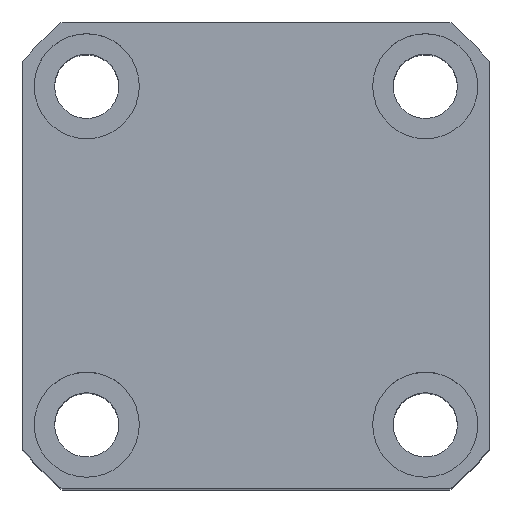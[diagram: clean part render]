
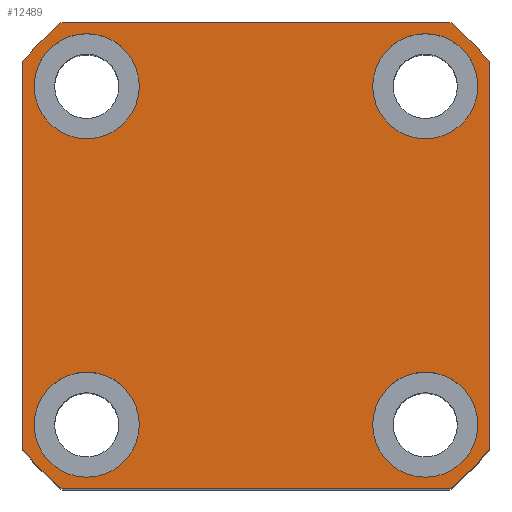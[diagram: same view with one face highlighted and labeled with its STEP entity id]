
A CAD part, top view. The second image highlights one B-rep face of the part: STEP entity #12489.
In plain terms, the highlighted planar face has unit normal (0, 0, 1).
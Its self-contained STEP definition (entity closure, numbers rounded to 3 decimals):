
#107 = EDGE_CURVE ( 'NONE', #7806, #4347, #4586, .T. ) ;
#220 = EDGE_LOOP ( 'NONE', ( #11628, #12143, #1684, #2811, #1865, #14330, #4823, #14728 ) ) ;
#363 = CARTESIAN_POINT ( 'NONE',  ( -38., -29., 52.5 ) ) ;
#383 = EDGE_CURVE ( 'NONE', #12093, #3371, #5280, .T. ) ;
#530 = FACE_BOUND ( 'NONE', #10730, .T. ) ;
#678 = DIRECTION ( 'NONE',  ( 1., 0., 0. ) ) ;
#690 = VERTEX_POINT ( 'NONE', #1477 ) ;
#784 = DIRECTION ( 'NONE',  ( 0., 0., 1. ) ) ;
#790 = CARTESIAN_POINT ( 'NONE',  ( 29., 29., 52.5 ) ) ;
#918 = LINE ( 'NONE', #8111, #12645 ) ;
#964 = VERTEX_POINT ( 'NONE', #14596 ) ;
#1140 = CARTESIAN_POINT ( 'NONE',  ( -38., 29., 52.5 ) ) ;
#1145 = ORIENTED_EDGE ( 'NONE', *, *, #383, .F. ) ;
#1226 = AXIS2_PLACEMENT_3D ( 'NONE', #5918, #1449, #1491 ) ;
#1241 = FACE_BOUND ( 'NONE', #4212, .T. ) ;
#1249 = AXIS2_PLACEMENT_3D ( 'NONE', #5684, #10128, #5488 ) ;
#1386 = DIRECTION ( 'NONE',  ( 1., 0., 0. ) ) ;
#1406 = VERTEX_POINT ( 'NONE', #11835 ) ;
#1449 = DIRECTION ( 'NONE',  ( 0., 0., 1. ) ) ;
#1477 = CARTESIAN_POINT ( 'NONE',  ( 38., 29., 52.5 ) ) ;
#1491 = DIRECTION ( 'NONE',  ( 1., 0., 0. ) ) ;
#1684 = ORIENTED_EDGE ( 'NONE', *, *, #14393, .T. ) ;
#1688 = VERTEX_POINT ( 'NONE', #7994 ) ;
#1765 = CIRCLE ( 'NONE', #11848, 52. ) ;
#1865 = ORIENTED_EDGE ( 'NONE', *, *, #4082, .T. ) ;
#1914 = VECTOR ( 'NONE', #11113, 1000. ) ;
#2273 = EDGE_CURVE ( 'NONE', #13823, #1406, #8250, .T. ) ;
#2431 = CARTESIAN_POINT ( 'NONE',  ( -40., 33.226, 52.5 ) ) ;
#2452 = AXIS2_PLACEMENT_3D ( 'NONE', #10095, #6751, #8017 ) ;
#2558 = CARTESIAN_POINT ( 'NONE',  ( 20., 29., 52.5 ) ) ;
#2579 = CARTESIAN_POINT ( 'NONE',  ( 40., 33.226, 52.5 ) ) ;
#2666 = AXIS2_PLACEMENT_3D ( 'NONE', #6213, #10846, #678 ) ;
#2749 = VERTEX_POINT ( 'NONE', #12385 ) ;
#2811 = ORIENTED_EDGE ( 'NONE', *, *, #107, .T. ) ;
#2931 = EDGE_CURVE ( 'NONE', #9755, #7926, #7462, .T. ) ;
#3055 = PLANE ( 'NONE',  #8525 ) ;
#3078 = DIRECTION ( 'NONE',  ( 0., 1., 0. ) ) ;
#3371 = VERTEX_POINT ( 'NONE', #1140 ) ;
#3671 = DIRECTION ( 'NONE',  ( 1., 0., 0. ) ) ;
#3706 = EDGE_CURVE ( 'NONE', #7926, #9755, #7653, .T. ) ;
#3729 = LINE ( 'NONE', #6723, #5689 ) ;
#4018 = DIRECTION ( 'NONE',  ( 1., 0., 0. ) ) ;
#4082 = EDGE_CURVE ( 'NONE', #4347, #964, #1765, .T. ) ;
#4180 = ORIENTED_EDGE ( 'NONE', *, *, #3706, .F. ) ;
#4212 = EDGE_LOOP ( 'NONE', ( #5787, #10402 ) ) ;
#4347 = VERTEX_POINT ( 'NONE', #6998 ) ;
#4414 = CIRCLE ( 'NONE', #6284, 52. ) ;
#4457 = CARTESIAN_POINT ( 'NONE',  ( 0., 0., 52.5 ) ) ;
#4586 = LINE ( 'NONE', #5383, #1914 ) ;
#4589 = DIRECTION ( 'NONE',  ( 0., 0., 1. ) ) ;
#4731 = DIRECTION ( 'NONE',  ( 0., 0., 1. ) ) ;
#4823 = ORIENTED_EDGE ( 'NONE', *, *, #6606, .T. ) ;
#5177 = DIRECTION ( 'NONE',  ( 0., 0., 1. ) ) ;
#5226 = AXIS2_PLACEMENT_3D ( 'NONE', #10707, #5177, #13123 ) ;
#5249 = VECTOR ( 'NONE', #11686, 1000. ) ;
#5280 = CIRCLE ( 'NONE', #9931, 9. ) ;
#5364 = CARTESIAN_POINT ( 'NONE',  ( 0., 0., 52.5 ) ) ;
#5383 = CARTESIAN_POINT ( 'NONE',  ( -33.226, -40., 52.5 ) ) ;
#5488 = DIRECTION ( 'NONE',  ( 1., 0., 0. ) ) ;
#5523 = CARTESIAN_POINT ( 'NONE',  ( -29., 29., 52.5 ) ) ;
#5684 = CARTESIAN_POINT ( 'NONE',  ( 29., -29., 52.5 ) ) ;
#5689 = VECTOR ( 'NONE', #3078, 1000. ) ;
#5751 = EDGE_CURVE ( 'NONE', #964, #6970, #3729, .T. ) ;
#5770 = ORIENTED_EDGE ( 'NONE', *, *, #7641, .F. ) ;
#5787 = ORIENTED_EDGE ( 'NONE', *, *, #11974, .F. ) ;
#5843 = DIRECTION ( 'NONE',  ( -1., 0., 0. ) ) ;
#5861 = DIRECTION ( 'NONE',  ( 0., 0., 1. ) ) ;
#5918 = CARTESIAN_POINT ( 'NONE',  ( 29., 29., 52.5 ) ) ;
#6012 = CIRCLE ( 'NONE', #7314, 52. ) ;
#6213 = CARTESIAN_POINT ( 'NONE',  ( 29., -29., 52.5 ) ) ;
#6284 = AXIS2_PLACEMENT_3D ( 'NONE', #10416, #4731, #3671 ) ;
#6355 = CARTESIAN_POINT ( 'NONE',  ( -33.226, -40., 52.5 ) ) ;
#6427 = DIRECTION ( 'NONE',  ( 1., 0., 0. ) ) ;
#6606 = EDGE_CURVE ( 'NONE', #6970, #14487, #11538, .T. ) ;
#6723 = CARTESIAN_POINT ( 'NONE',  ( 40., 33.226, 52.5 ) ) ;
#6751 = DIRECTION ( 'NONE',  ( 0., 0., 1. ) ) ;
#6970 = VERTEX_POINT ( 'NONE', #2579 ) ;
#6998 = CARTESIAN_POINT ( 'NONE',  ( 33.226, -40., 52.5 ) ) ;
#7117 = VERTEX_POINT ( 'NONE', #2558 ) ;
#7126 = FACE_BOUND ( 'NONE', #7548, .T. ) ;
#7292 = VERTEX_POINT ( 'NONE', #12235 ) ;
#7314 = AXIS2_PLACEMENT_3D ( 'NONE', #7599, #784, #8731 ) ;
#7462 = CIRCLE ( 'NONE', #5226, 9. ) ;
#7548 = EDGE_LOOP ( 'NONE', ( #4180, #13694 ) ) ;
#7599 = CARTESIAN_POINT ( 'NONE',  ( 0., 0., 52.5 ) ) ;
#7641 = EDGE_CURVE ( 'NONE', #2749, #1688, #9558, .T. ) ;
#7653 = CIRCLE ( 'NONE', #2452, 9. ) ;
#7806 = VERTEX_POINT ( 'NONE', #6355 ) ;
#7841 = DIRECTION ( 'NONE',  ( 1., 0., 0. ) ) ;
#7926 = VERTEX_POINT ( 'NONE', #14519 ) ;
#7993 = FACE_OUTER_BOUND ( 'NONE', #220, .T. ) ;
#7994 = CARTESIAN_POINT ( 'NONE',  ( 38., -29., 52.5 ) ) ;
#8017 = DIRECTION ( 'NONE',  ( 1., 0., 0. ) ) ;
#8111 = CARTESIAN_POINT ( 'NONE',  ( -33.226, 40., 52.5 ) ) ;
#8205 = ORIENTED_EDGE ( 'NONE', *, *, #14074, .F. ) ;
#8250 = LINE ( 'NONE', #10383, #5249 ) ;
#8319 = CIRCLE ( 'NONE', #10343, 9. ) ;
#8525 = AXIS2_PLACEMENT_3D ( 'NONE', #5364, #10090, #13544 ) ;
#8684 = CARTESIAN_POINT ( 'NONE',  ( -20., 29., 52.5 ) ) ;
#8731 = DIRECTION ( 'NONE',  ( 1., 0., 0. ) ) ;
#8787 = EDGE_CURVE ( 'NONE', #1688, #2749, #14373, .T. ) ;
#9558 = CIRCLE ( 'NONE', #2666, 9. ) ;
#9755 = VERTEX_POINT ( 'NONE', #363 ) ;
#9931 = AXIS2_PLACEMENT_3D ( 'NONE', #12602, #5861, #1386 ) ;
#10090 = DIRECTION ( 'NONE',  ( 0., 0., 1. ) ) ;
#10095 = CARTESIAN_POINT ( 'NONE',  ( -29., -29., 52.5 ) ) ;
#10128 = DIRECTION ( 'NONE',  ( 0., 0., 1. ) ) ;
#10230 = AXIS2_PLACEMENT_3D ( 'NONE', #790, #13215, #6427 ) ;
#10343 = AXIS2_PLACEMENT_3D ( 'NONE', #5523, #4589, #7841 ) ;
#10383 = CARTESIAN_POINT ( 'NONE',  ( -40., 33.226, 52.5 ) ) ;
#10402 = ORIENTED_EDGE ( 'NONE', *, *, #10415, .F. ) ;
#10415 = EDGE_CURVE ( 'NONE', #7117, #690, #10869, .T. ) ;
#10416 = CARTESIAN_POINT ( 'NONE',  ( 0., 0., 52.5 ) ) ;
#10707 = CARTESIAN_POINT ( 'NONE',  ( -29., -29., 52.5 ) ) ;
#10730 = EDGE_LOOP ( 'NONE', ( #14605, #5770 ) ) ;
#10846 = DIRECTION ( 'NONE',  ( 0., 0., 1. ) ) ;
#10869 = CIRCLE ( 'NONE', #1226, 9. ) ;
#11113 = DIRECTION ( 'NONE',  ( 1., 0., 0. ) ) ;
#11198 = CIRCLE ( 'NONE', #10230, 9. ) ;
#11382 = DIRECTION ( 'NONE',  ( 0., 0., 1. ) ) ;
#11528 = AXIS2_PLACEMENT_3D ( 'NONE', #4457, #11382, #12376 ) ;
#11538 = CIRCLE ( 'NONE', #11528, 52. ) ;
#11585 = EDGE_CURVE ( 'NONE', #14487, #7292, #918, .T. ) ;
#11628 = ORIENTED_EDGE ( 'NONE', *, *, #14128, .T. ) ;
#11686 = DIRECTION ( 'NONE',  ( 0., -1., 0. ) ) ;
#11835 = CARTESIAN_POINT ( 'NONE',  ( -40., -33.226, 52.5 ) ) ;
#11848 = AXIS2_PLACEMENT_3D ( 'NONE', #12070, #12157, #4018 ) ;
#11974 = EDGE_CURVE ( 'NONE', #690, #7117, #11198, .T. ) ;
#12070 = CARTESIAN_POINT ( 'NONE',  ( 0., 0., 52.5 ) ) ;
#12093 = VERTEX_POINT ( 'NONE', #8684 ) ;
#12143 = ORIENTED_EDGE ( 'NONE', *, *, #2273, .T. ) ;
#12157 = DIRECTION ( 'NONE',  ( 0., 0., 1. ) ) ;
#12235 = CARTESIAN_POINT ( 'NONE',  ( -33.226, 40., 52.5 ) ) ;
#12376 = DIRECTION ( 'NONE',  ( 1., 0., 0. ) ) ;
#12385 = CARTESIAN_POINT ( 'NONE',  ( 20., -29., 52.5 ) ) ;
#12489 = ADVANCED_FACE ( 'NONE', ( #530, #7126, #14595, #1241, #7993 ), #3055, .T. ) ;
#12602 = CARTESIAN_POINT ( 'NONE',  ( -29., 29., 52.5 ) ) ;
#12645 = VECTOR ( 'NONE', #5843, 1000. ) ;
#13123 = DIRECTION ( 'NONE',  ( 1., 0., 0. ) ) ;
#13215 = DIRECTION ( 'NONE',  ( 0., 0., 1. ) ) ;
#13267 = CARTESIAN_POINT ( 'NONE',  ( 33.226, 40., 52.5 ) ) ;
#13544 = DIRECTION ( 'NONE',  ( 1., 0., 0. ) ) ;
#13694 = ORIENTED_EDGE ( 'NONE', *, *, #2931, .F. ) ;
#13823 = VERTEX_POINT ( 'NONE', #2431 ) ;
#14074 = EDGE_CURVE ( 'NONE', #3371, #12093, #8319, .T. ) ;
#14128 = EDGE_CURVE ( 'NONE', #7292, #13823, #4414, .T. ) ;
#14205 = EDGE_LOOP ( 'NONE', ( #1145, #8205 ) ) ;
#14330 = ORIENTED_EDGE ( 'NONE', *, *, #5751, .T. ) ;
#14373 = CIRCLE ( 'NONE', #1249, 9. ) ;
#14393 = EDGE_CURVE ( 'NONE', #1406, #7806, #6012, .T. ) ;
#14487 = VERTEX_POINT ( 'NONE', #13267 ) ;
#14519 = CARTESIAN_POINT ( 'NONE',  ( -20., -29., 52.5 ) ) ;
#14595 = FACE_BOUND ( 'NONE', #14205, .T. ) ;
#14596 = CARTESIAN_POINT ( 'NONE',  ( 40., -33.226, 52.5 ) ) ;
#14605 = ORIENTED_EDGE ( 'NONE', *, *, #8787, .F. ) ;
#14728 = ORIENTED_EDGE ( 'NONE', *, *, #11585, .T. ) ;
